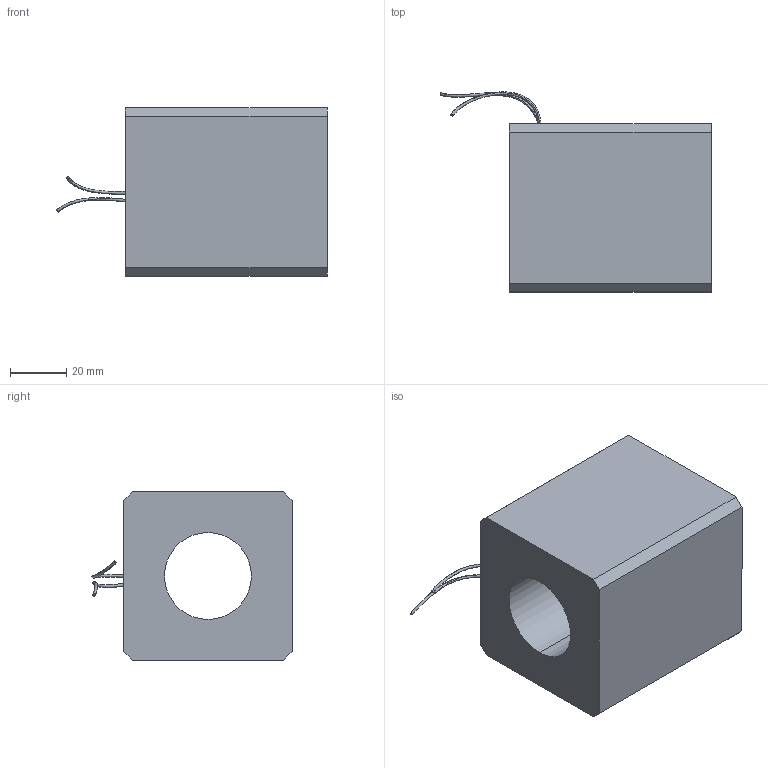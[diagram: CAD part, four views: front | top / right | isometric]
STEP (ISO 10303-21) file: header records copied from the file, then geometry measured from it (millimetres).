
FILE_DESCRIPTION (( 'STEP AP214' ), '1' );
FILE_NAME ('MLS60_31x72.STEP', '2015-07-17T07:53:36', ( '' ), ( '' ), 'SwSTEP 2.0', 'SolidWorks 2014', '' );
FILE_SCHEMA (( 'AUTOMOTIVE_DESIGN' ));
Length unit declared in the file: millimetre
Products named in the file (2): MLS60_31x72
Bounding box: 96.53 x 71.37 x 60 mm (x, y, z)
Volume: 211367.9 mm3; surface area: 35774.6 mm2
Topology: 8 solids, 9 shells, 72 faces, 140 edges, 89 vertices
Faces by surface type: plane 30, cylinder 26, cone 10, bspline 4, torus 2
Entity records: 3218 total; most frequent: CARTESIAN_POINT 789, DIRECTION 348, ORIENTED_EDGE 276, AXIS2_PLACEMENT_3D 144, EDGE_CURVE 138, VERTEX_POINT 89, UNCERTAINTY_MEASURE_WITH_UNIT 82, EDGE_LOOP 81
